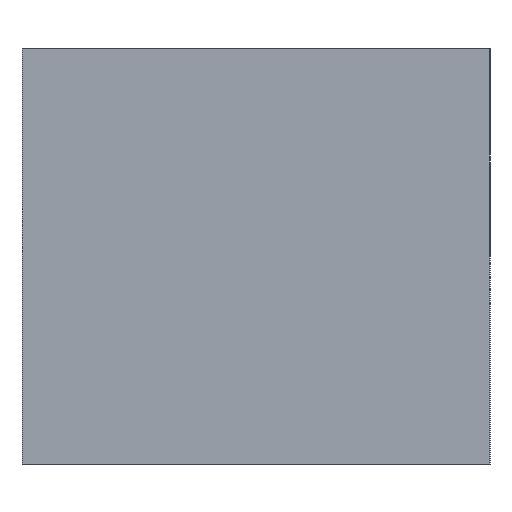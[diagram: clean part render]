
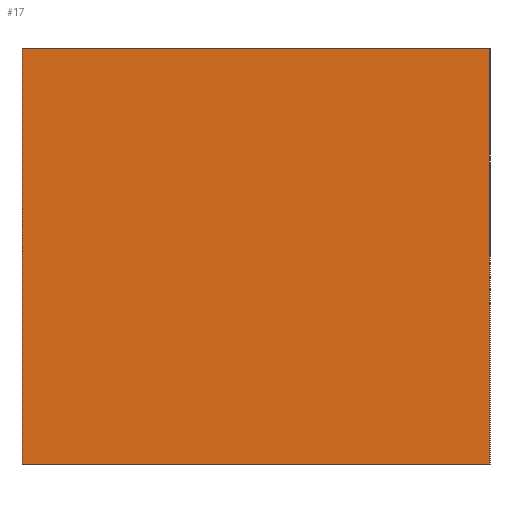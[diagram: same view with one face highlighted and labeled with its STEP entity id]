
A CAD part, left-side view. The second image highlights one B-rep face of the part: STEP entity #17.
In plain terms, the highlighted planar face has unit normal (-1, 0, 0).
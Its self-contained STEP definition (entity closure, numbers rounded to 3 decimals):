
#17 = ADVANCED_FACE('',(#18),#52,.F.);
#18 = FACE_BOUND('',#19,.F.);
#19 = EDGE_LOOP('',(#20,#30,#38,#46));
#20 = ORIENTED_EDGE('',*,*,#21,.F.);
#21 = EDGE_CURVE('',#22,#24,#26,.T.);
#22 = VERTEX_POINT('',#23);
#23 = CARTESIAN_POINT('',(-600.,-180.,0.));
#24 = VERTEX_POINT('',#25);
#25 = CARTESIAN_POINT('',(-600.,-180.,320.));
#26 = LINE('',#27,#28);
#27 = CARTESIAN_POINT('',(-600.,-180.,0.));
#28 = VECTOR('',#29,1.);
#29 = DIRECTION('',(0.,0.,1.));
#30 = ORIENTED_EDGE('',*,*,#31,.T.);
#31 = EDGE_CURVE('',#22,#32,#34,.T.);
#32 = VERTEX_POINT('',#33);
#33 = CARTESIAN_POINT('',(-600.,180.,0.));
#34 = LINE('',#35,#36);
#35 = CARTESIAN_POINT('',(-600.,-180.,0.));
#36 = VECTOR('',#37,1.);
#37 = DIRECTION('',(-0.,1.,0.));
#38 = ORIENTED_EDGE('',*,*,#39,.T.);
#39 = EDGE_CURVE('',#32,#40,#42,.T.);
#40 = VERTEX_POINT('',#41);
#41 = CARTESIAN_POINT('',(-600.,180.,320.));
#42 = LINE('',#43,#44);
#43 = CARTESIAN_POINT('',(-600.,180.,0.));
#44 = VECTOR('',#45,1.);
#45 = DIRECTION('',(0.,0.,1.));
#46 = ORIENTED_EDGE('',*,*,#47,.F.);
#47 = EDGE_CURVE('',#24,#40,#48,.T.);
#48 = LINE('',#49,#50);
#49 = CARTESIAN_POINT('',(-600.,-180.,320.));
#50 = VECTOR('',#51,1.);
#51 = DIRECTION('',(-0.,1.,0.));
#52 = PLANE('',#53);
#53 = AXIS2_PLACEMENT_3D('',#54,#55,#56);
#54 = CARTESIAN_POINT('',(-600.,-180.,0.));
#55 = DIRECTION('',(1.,0.,-0.));
#56 = DIRECTION('',(0.,0.,1.));
